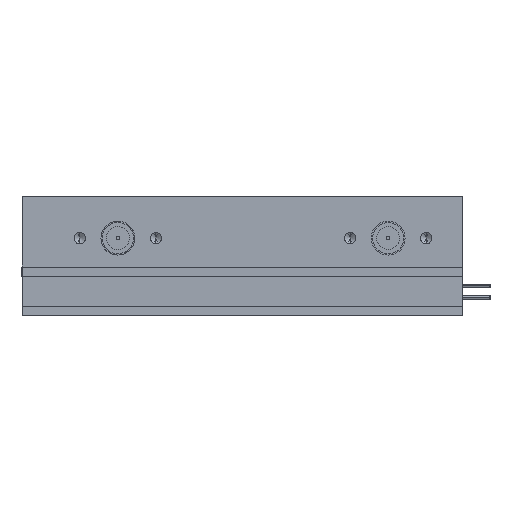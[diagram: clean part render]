
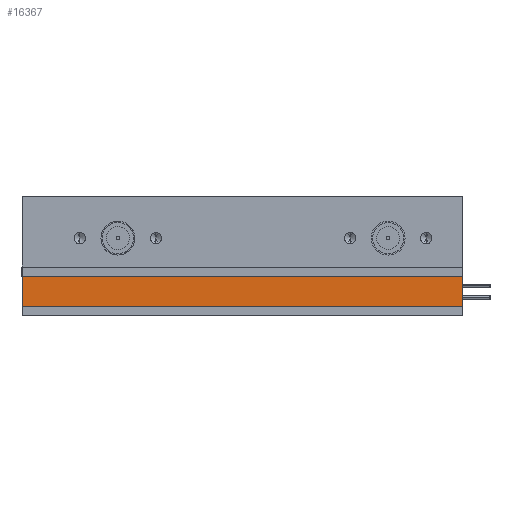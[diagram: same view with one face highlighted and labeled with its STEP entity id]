
A CAD part, left-side view. The second image highlights one B-rep face of the part: STEP entity #16367.
In plain terms, the highlighted planar face has unit normal (-1, 0, 0) as drawn and (1, 0, 0) by its records, which use the part's own axes.
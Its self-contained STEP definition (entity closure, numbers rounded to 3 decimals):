
#3155 = FACE_OUTER_BOUND ( 'NONE', #18505, .T. ) ;
#3533 = DIRECTION ( 'NONE',  ( 0., 0., 1. ) ) ;
#5653 = DIRECTION ( 'NONE',  ( 0., 1., 0. ) ) ;
#6342 = VERTEX_POINT ( 'NONE', #28836 ) ;
#7439 = EDGE_CURVE ( 'NONE', #11339, #24753, #13547, .T. ) ;
#8117 = VECTOR ( 'NONE', #13314, 1000. ) ;
#8707 = CARTESIAN_POINT ( 'NONE',  ( 505.498, 61.546, 3.3 ) ) ;
#8824 = PLANE ( 'NONE',  #17052 ) ;
#11339 = VERTEX_POINT ( 'NONE', #14048 ) ;
#11421 = CARTESIAN_POINT ( 'NONE',  ( 505.498, 13.546, 3.3 ) ) ;
#12038 = LINE ( 'NONE', #11421, #16484 ) ;
#12080 = ORIENTED_EDGE ( 'NONE', *, *, #7439, .T. ) ;
#13314 = DIRECTION ( 'NONE',  ( 0., 1., 0. ) ) ;
#13547 = LINE ( 'NONE', #16217, #29716 ) ;
#13961 = DIRECTION ( 'NONE',  ( -1., 0., 0. ) ) ;
#14048 = CARTESIAN_POINT ( 'NONE',  ( 505.498, 13.546, 0. ) ) ;
#14200 = CARTESIAN_POINT ( 'NONE',  ( 505.498, 13.546, 3.3 ) ) ;
#14381 = DIRECTION ( 'NONE',  ( 0., 0., -1. ) ) ;
#15605 = CARTESIAN_POINT ( 'NONE',  ( 505.498, 61.546, 0. ) ) ;
#15642 = VECTOR ( 'NONE', #14381, 1000. ) ;
#15676 = EDGE_CURVE ( 'NONE', #27399, #11339, #12038, .T. ) ;
#16217 = CARTESIAN_POINT ( 'NONE',  ( 505.498, 61.546, 0. ) ) ;
#16316 = ORIENTED_EDGE ( 'NONE', *, *, #31168, .F. ) ;
#16367 = ADVANCED_FACE ( 'NONE', ( #3155 ), #8824, .F. ) ;
#16484 = VECTOR ( 'NONE', #26749, 1000. ) ;
#17052 = AXIS2_PLACEMENT_3D ( 'NONE', #8707, #13961, #3533 ) ;
#17092 = CARTESIAN_POINT ( 'NONE',  ( 505.498, 61.546, 3.3 ) ) ;
#18505 = EDGE_LOOP ( 'NONE', ( #12080, #29692, #16316, #27122 ) ) ;
#21374 = LINE ( 'NONE', #28796, #8117 ) ;
#24753 = VERTEX_POINT ( 'NONE', #15605 ) ;
#26749 = DIRECTION ( 'NONE',  ( 0., 0., -1. ) ) ;
#27122 = ORIENTED_EDGE ( 'NONE', *, *, #15676, .T. ) ;
#27399 = VERTEX_POINT ( 'NONE', #14200 ) ;
#28049 = EDGE_CURVE ( 'NONE', #6342, #24753, #29369, .T. ) ;
#28796 = CARTESIAN_POINT ( 'NONE',  ( 505.498, 61.546, 3.3 ) ) ;
#28836 = CARTESIAN_POINT ( 'NONE',  ( 505.498, 61.546, 3.3 ) ) ;
#29369 = LINE ( 'NONE', #17092, #15642 ) ;
#29692 = ORIENTED_EDGE ( 'NONE', *, *, #28049, .F. ) ;
#29716 = VECTOR ( 'NONE', #5653, 1000. ) ;
#31168 = EDGE_CURVE ( 'NONE', #27399, #6342, #21374, .T. ) ;
